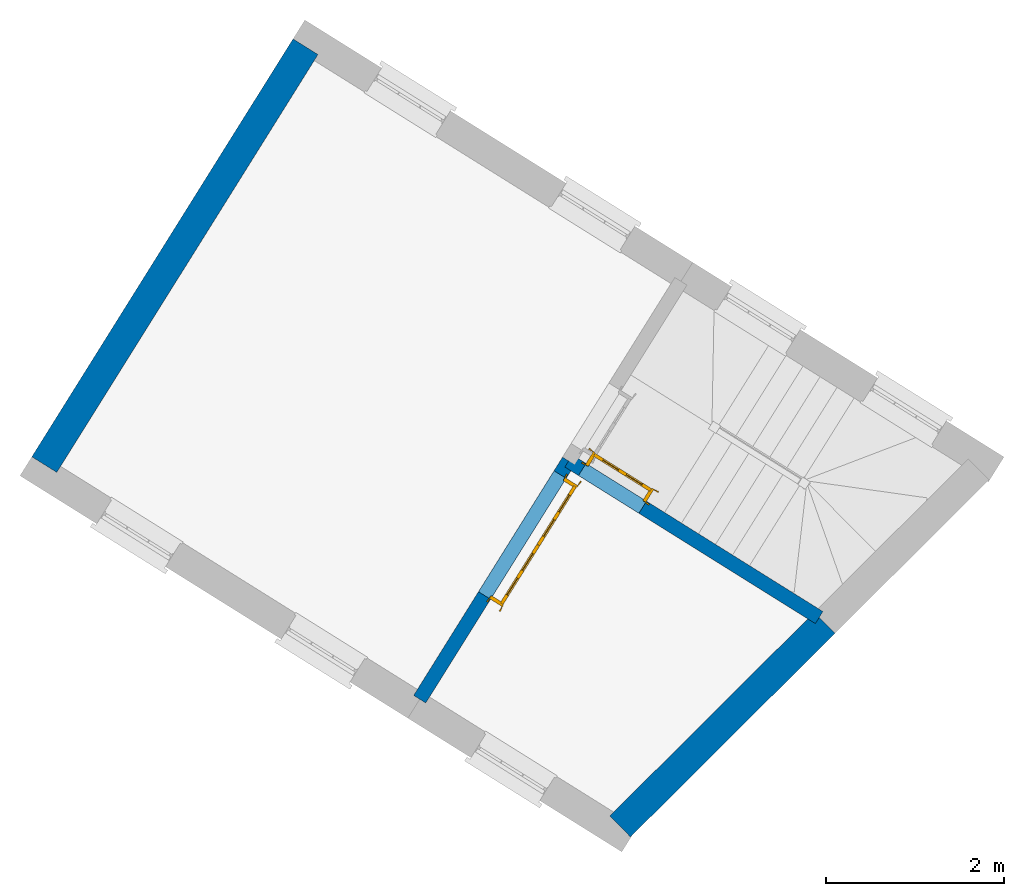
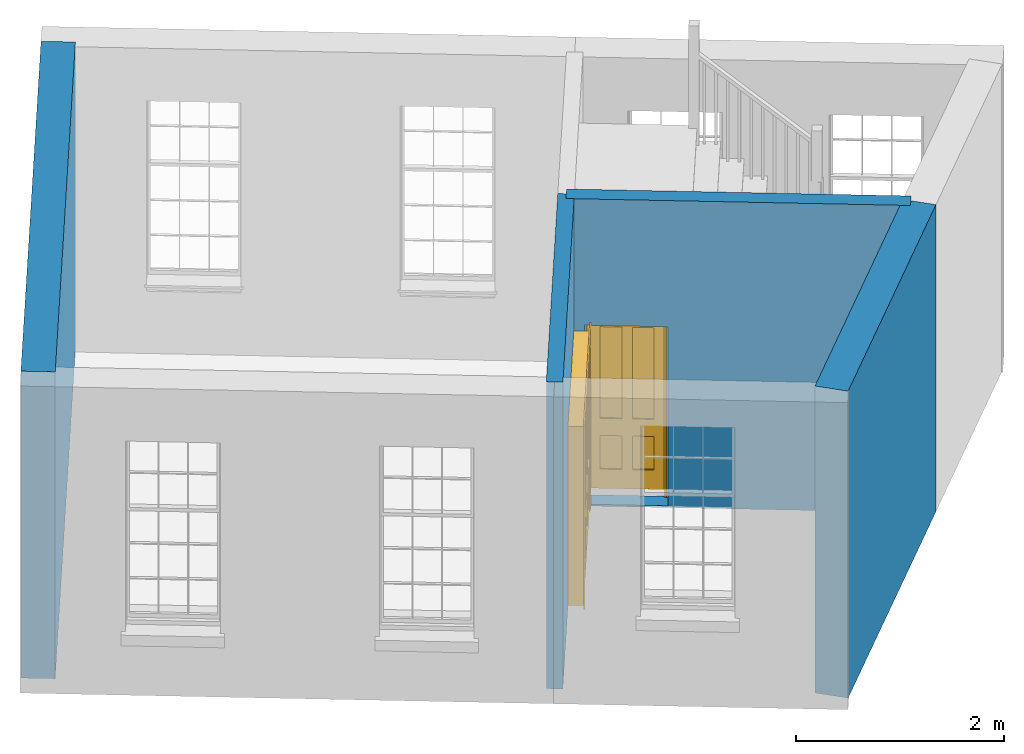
# One storey, part 2 of 3: 4 walls, 2 doors, 2 openings.
"""IFC4 building model written with IfcOpenShell, lengths in metres."""

from ifc_helpers import new_model, si_unit, frame, origin, origin_with_axes, place, context, subcontext, project, spatial, polyline, outline, extrude, faceted_brep, source, transform, mapped, material, layer, layer_set, layer_usage, type_object, type_shapes, element, fill, save


model = new_model("IFC4")

# Units and contexts
model_context = context("Model", 3, world=origin_with_axes())
body_context = subcontext(model_context, "Body", "Model", "MODEL_VIEW")
ifc_project = project(units=[si_unit("PLANEANGLEUNIT", "RADIAN"), si_unit("MASSUNIT", "GRAM", prefix="KILO"), si_unit("FORCEUNIT", "NEWTON", prefix="KILO"), si_unit("LENGTHUNIT", "METRE"), si_unit("AREAUNIT", "SQUARE_METRE"), si_unit("VOLUMEUNIT", "CUBIC_METRE")], contexts=[model_context, model_context])

# Sites, building, storey
site_1_placement = place(None, origin_with_axes())
site_1 = spatial("IfcSite", under=ifc_project, at=site_1_placement, Name="Tamar")
site_2_placement = place(site_1_placement, origin_with_axes())
site_2 = spatial("IfcSite", under=site_1, at=site_2_placement, Name="Site plot-4", CompositionType="ELEMENT")
building_placement = place(None, origin_with_axes())
building = spatial("IfcBuilding", under=site_2, at=building_placement, Name="Building plot-4", CompositionType="ELEMENT")
storey_placement = place(None, frame((0.0, 0.0, 27.8), z_axis=(0.0, 0.0, 1.0), x_axis=(1.0, 0.0, 0.0)))
storey = spatial("IfcBuildingStorey", under=building, at=storey_placement, Name="plot-4 1", CompositionType="ELEMENT", Elevation=27.8)

# Walls
ifc_material_1 = material(Name="Masonry")
ifc_layer_1 = layer(ifc_material_1, 0.33, ventilated=False)
ifc_layer_set_1 = layer_set([ifc_layer_1], Name="party_0.08_0.25")
ifc_layer_usage_1 = layer_usage(ifc_layer_set_1, "AXIS2", "POSITIVE", -0.25)
wall_type_1 = type_object("IfcWallType", Name="party_0.08_0.25", PredefinedType="SOLIDWALL", material=ifc_layer_set_1)
wall_1_placement = place(storey_placement, frame((224.156556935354, 277.526223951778, 0.0), z_axis=(0.0, 0.0, 1.0), x_axis=(0.708567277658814, 0.705643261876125, 0.0)))
element("IfcWall", 1, at=wall_1_placement, inside=storey, type_object=wall_type_1, material=ifc_layer_usage_1, Name="party", context=body_context, shape_type="SweptSolid", body=[
    extrude(outline(polyline([(1.32209934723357e-14, 0.0800000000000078), (-1.09491493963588e-15, -0.250000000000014), (3.23643631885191, -0.250000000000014), (3.23643631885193, 0.0800000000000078), (1.32209934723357e-14, 0.0800000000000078)])), origin_with_axes(), (0.0, 0.0, 1.0), 3.6),
])
wall_2_placement = place(storey_placement, frame((220.76030713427, 286.167999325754, 0.0), z_axis=(0.0, 0.0, 1.0), x_axis=(-0.530026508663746, -0.847981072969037, 0.0)))
element("IfcWall", 2, at=wall_2_placement, inside=storey, type_object=wall_type_1, material=ifc_layer_usage_1, Name="party", context=body_context, shape_type="SweptSolid", body=[
    extrude(outline(polyline([(1.56172444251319e-14, 0.0799999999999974), (4.67824478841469e-15, -0.249999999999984), (5.52795952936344, -0.249999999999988), (5.52795952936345, 0.0799999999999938), (1.56172444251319e-14, 0.0799999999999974)])), origin_with_axes(), (0.0, 0.0, 1.0), 3.6),
])

# Wall, opening, door
ifc_material_2 = material(Name="Masonry")
ifc_layer_2 = layer(ifc_material_2, 0.16, ventilated=False)
ifc_layer_set_2 = layer_set([ifc_layer_2], Name="interior_0.08_0.08")
ifc_layer_usage_2 = layer_usage(ifc_layer_set_2, "AXIS2", "POSITIVE", -0.08)
wall_type_2 = type_object("IfcWallType", Name="interior_0.08_0.08", PredefinedType="SOLIDWALL", material=ifc_layer_set_2)
wall_3_placement = place(storey_placement, frame((223.639587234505, 281.566497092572, 0.0), z_axis=(0.0, 0.0, 1.0), x_axis=(0.847981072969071, -0.530026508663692, 0.0)))
wall_3 = element("IfcWall", 3, at=wall_3_placement, inside=storey, type_object=wall_type_2, material=ifc_layer_usage_2, Name="interior", context=body_context, shape_type="SweptSolid", body=[
    extrude(outline(polyline([(-3.37017940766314e-15, 0.0799999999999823), (3.32485509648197e-15, -0.0799999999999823), (3.3139920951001, -0.0799999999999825), (3.3139920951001, 0.0799999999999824), (-3.37017940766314e-15, 0.0799999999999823)])), origin_with_axes(), (0.0, 0.0, 1.0), 3.6),
])
opening_1_placement = place(wall_3_placement, frame((0.180000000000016, 0.0, 0.0199999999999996)))
opening_1 = element("IfcOpeningElement", 4, at=opening_1_placement, cuts=wall_3, Name="My Opening", ObjectType="Opening", context=body_context, shape_type="SweptSolid", body=[
    extrude(outline(polyline([(0.0, -0.100000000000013), (0.79999999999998, -0.100000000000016), (0.799999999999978, 1.10000000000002), (-2.08166817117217e-15, 1.10000000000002), (0.0, -0.100000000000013)])), origin_with_axes(), (0.0, 0.0, 1.0), 2.1),
])
door_type_1 = type_object("IfcDoorType", Name="door_inside", OperationType="SINGLE_SWING_LEFT", PredefinedType="NOTDEFINED")
shared_shape_1 = source(origin(), body_context, "Body", "Brep", [
    faceted_brep([(0.773, 0.33, 1.895), (0.66, 0.33, 1.895), (0.66, 0.33, 2.073), (0.773, 0.33, 2.073), (0.773, 0.33, 0.82), (0.66, 0.33, 0.82), (0.45, 0.33, 1.895), (0.45, 0.33, 2.073), (0.773, 0.33, 0.62), (0.66, 0.33, 0.62), (0.66, 0.315, 0.82), (0.66, 0.315, 1.895), (0.45, 0.315, 1.895), (0.35, 0.33, 1.895), (0.35, 0.33, 2.073), (0.773, 0.33, 0.225), (0.66, 0.33, 0.225), (0.45, 0.33, 0.62), (0.45, 0.33, 0.82), (0.45, 0.315, 0.82), (0.35, 0.33, 0.82), (0.14, 0.33, 2.073), (0.14, 0.33, 1.895), (0.773, 0.33, 0.0), (0.66, 0.33, 0.0), (0.66, 0.315, 0.225), (0.66, 0.315, 0.62), (0.45, 0.315, 0.62), (0.35, 0.33, 0.62), (0.35, 0.315, 0.82), (0.35, 0.315, 1.895), (0.14, 0.315, 1.895), (0.027, 0.33, 2.073), (0.027, 0.33, 1.895), (0.773, 0.292, 0.0), (0.66, 0.292, 0.0), (0.45, 0.33, 0.0), (0.45, 0.33, 0.225), (0.45, 0.315, 0.225), (0.35, 0.33, 0.225), (0.14, 0.33, 0.82), (0.14, 0.33, 0.62), (0.14, 0.315, 0.82), (0.027, 0.33, 0.82), (0.773, 0.292, 0.225), (0.66, 0.292, 0.225), (0.45, 0.292, 0.0), (0.35, 0.33, 0.0), (0.35, 0.315, 0.225), (0.35, 0.315, 0.62), (0.14, 0.315, 0.62), (0.027, 0.33, 0.62), (0.773, 0.292, 0.62), (0.66, 0.292, 0.62), (0.45, 0.292, 0.225), (0.35, 0.292, 0.0), (0.14, 0.33, 0.225), (0.14, 0.33, 0.0), (0.14, 0.315, 0.225), (0.027, 0.33, 0.225), (0.773, 0.292, 0.82), (0.66, 0.292, 0.82), (0.66, 0.307, 0.62), (0.66, 0.307, 0.225), (0.45, 0.307, 0.225), (0.35, 0.292, 0.225), (0.14, 0.292, 0.0), (0.027, 0.33, 0.0), (0.773, 0.292, 1.895), (0.66, 0.292, 1.895), (0.45, 0.292, 0.62), (0.45, 0.292, 0.82), (0.45, 0.307, 0.62), (0.35, 0.292, 0.62), (0.14, 0.292, 0.225), (0.027, 0.292, 0.0), (0.773, 0.292, 2.073), (0.66, 0.292, 2.073), (0.66, 0.307, 1.895), (0.66, 0.307, 0.82), (0.45, 0.307, 0.82), (0.35, 0.292, 0.82), (0.35, 0.307, 0.62), (0.35, 0.307, 0.225), (0.14, 0.307, 0.225), (0.027, 0.292, 0.225), (0.45, 0.292, 1.895), (0.45, 0.292, 2.073), (0.45, 0.307, 1.895), (0.35, 0.292, 1.895), (0.14, 0.292, 0.82), (0.14, 0.292, 0.62), (0.14, 0.307, 0.62), (0.027, 0.292, 0.62), (0.35, 0.292, 2.073), (0.35, 0.307, 1.895), (0.35, 0.307, 0.82), (0.14, 0.307, 0.82), (0.027, 0.292, 0.82), (0.14, 0.292, 2.073), (0.14, 0.292, 1.895), (0.14, 0.307, 1.895), (0.027, 0.292, 1.895), (0.027, 0.292, 2.073), (0.02, 0.335, 0.0), (0.005, 0.34, 0.0), (0.005, 0.34, 2.095), (0.02, 0.335, 2.08), (0.02, 0.33, 0.0), (0.0, 0.335, 0.0), (0.0, 0.335, 2.1), (0.795, 0.34, 2.095), (0.78, 0.335, 2.08), (0.02, 0.33, 2.08), (0.0, 0.33, 0.0), (-0.032, 0.345, 0.0), (-0.032, 0.345, 2.132), (0.8, 0.335, 2.1), (0.795, 0.34, 0.0), (0.78, 0.335, 0.0), (0.78, 0.33, 2.08), (0.04, 0.29, 0.0), (0.025, 0.29, 0.0), (0.025, 0.29, 2.075), (0.04, 0.29, 2.06), (-0.04, 0.34, 0.0), (-0.04, 0.34, 2.14), (0.832, 0.345, 2.132), (0.8, 0.335, 0.0), (0.78, 0.33, 0.0), (0.8, 0.33, 0.0), (0.86, 0.33, 0.0), (0.86, 0.33, 2.16), (0.8, 0.33, 2.1), (-0.06, 0.33, 2.16), (0.0, 0.33, 2.1), (-0.06, 0.33, 0.0), (-0.04, 0.345, 0.0), (-0.04, 0.345, 2.14), (0.84, 0.34, 2.14), (0.832, 0.345, 0.0), (0.84, 0.34, 0.0), (0.86, 0.345, 0.0), (0.86, 0.345, 2.16), (-0.06, 0.345, 2.16), (-0.06, 0.345, 0.0), (0.84, 0.345, 0.0), (0.84, 0.345, 2.14), (-0.025, 0.155, 0.0), (-0.025, 0.16, 0.0), (-0.025, 0.16, 2.125), (-0.025, 0.155, 2.125), (-0.017, 0.155, 0.0), (-0.017, 0.155, 2.117), (0.825, 0.16, 2.125), (0.825, 0.155, 2.125), (0.825, 0.155, 0.0), (0.845, 0.155, 0.0), (-0.045, 0.155, 2.145), (-0.045, 0.155, 0.0), (0.845, 0.155, 2.145), (0.015, 0.165, 0.0), (0.015, 0.165, 2.085), (0.817, 0.155, 2.117), (0.825, 0.16, 0.0), (0.845, 0.17, 0.0), (0.845, 0.17, 2.145), (-0.045, 0.17, 2.145), (-0.045, 0.17, 0.0), (0.02, 0.16, 0.0), (0.02, 0.16, 2.08), (0.785, 0.165, 2.085), (0.817, 0.155, 0.0), (0.8, 0.17, 0.0), (0.8, 0.17, 2.1), (0.0, 0.17, 2.1), (0.0, 0.17, 0.0), (0.035, 0.165, 0.0), (0.035, 0.165, 2.065), (0.78, 0.16, 2.08), (0.785, 0.165, 0.0), (0.775, 0.29, 2.075), (0.76, 0.29, 2.06), (0.035, 0.17, 2.065), (0.035, 0.17, 0.0), (0.765, 0.165, 2.065), (0.78, 0.16, 0.0), (0.765, 0.17, 0.0), (0.765, 0.17, 2.065), (0.765, 0.165, 0.0), (0.04, 0.17, 2.06), (0.04, 0.17, 0.0), (0.76, 0.17, 2.06), (0.76, 0.17, 0.0), (0.76, 0.29, 0.0), (0.775, 0.29, 0.0), (0.025, 0.33, 0.0), (0.025, 0.33, 2.075), (0.775, 0.33, 0.0), (0.775, 0.33, 2.075)], [[[0, 1, 2, 3]], [[1, 0, 4, 5]], [[1, 6, 7, 2]], [[8, 9, 5, 4]], [[1, 5, 10, 11]], [[6, 1, 11, 12]], [[6, 13, 14, 7]], [[15, 16, 9, 8]], [[9, 17, 18, 5]], [[5, 18, 19, 10]], [[10, 19, 12, 11]], [[18, 6, 12, 19]], [[18, 20, 13, 6]], [[21, 14, 13, 22]], [[23, 24, 16, 15]], [[9, 16, 25, 26]], [[17, 9, 26, 27]], [[17, 28, 20, 18]], [[13, 20, 29, 30]], [[22, 13, 30, 31]], [[32, 21, 22, 33]], [[34, 35, 24, 23]], [[24, 36, 37, 16]], [[16, 37, 38, 25]], [[25, 38, 27, 26]], [[37, 17, 27, 38]], [[37, 39, 28, 17]], [[40, 20, 28, 41]], [[20, 40, 42, 29]], [[31, 30, 29, 42]], [[40, 22, 31, 42]], [[33, 22, 40, 43]], [[35, 34, 44, 45]], [[35, 46, 36, 24]], [[36, 47, 39, 37]], [[28, 39, 48, 49]], [[41, 28, 49, 50]], [[43, 40, 41, 51]], [[45, 44, 52, 53]], [[46, 35, 45, 54]], [[46, 55, 47, 36]], [[56, 39, 47, 57]], [[39, 56, 58, 48]], [[50, 49, 48, 58]], [[56, 41, 50, 58]], [[51, 41, 56, 59]], [[53, 52, 60, 61]], [[45, 53, 62, 63]], [[54, 45, 63, 64]], [[55, 46, 54, 65]], [[55, 66, 57, 47]], [[59, 56, 57, 67]], [[61, 60, 68, 69]], [[70, 53, 61, 71]], [[53, 70, 72, 62]], [[72, 64, 63, 62]], [[70, 54, 64, 72]], [[65, 54, 70, 73]], [[65, 74, 66, 55]], [[67, 57, 66, 75]], [[69, 68, 76, 77]], [[61, 69, 78, 79]], [[71, 61, 79, 80]], [[73, 70, 71, 81]], [[65, 73, 82, 83]], [[74, 65, 83, 84]], [[74, 85, 75, 66]], [[86, 69, 77, 87]], [[69, 86, 88, 78]], [[88, 80, 79, 78]], [[86, 71, 80, 88]], [[81, 71, 86, 89]], [[73, 81, 90, 91]], [[73, 91, 92, 82]], [[83, 82, 92, 84]], [[91, 74, 84, 92]], [[91, 93, 85, 74]], [[89, 86, 87, 94]], [[81, 89, 95, 96]], [[90, 81, 96, 97]], [[90, 98, 93, 91]], [[94, 99, 100, 89]], [[89, 100, 101, 95]], [[101, 97, 96, 95]], [[100, 90, 97, 101]], [[100, 102, 98, 90]], [[99, 103, 102, 100]], [[32, 103, 99, 21]], [[102, 103, 32, 33]], [[98, 102, 33, 43]], [[21, 99, 94, 14]], [[94, 87, 7, 14]], [[7, 87, 77, 2]], [[76, 3, 2, 77]], [[43, 51, 93, 98]], [[51, 59, 85, 93]], [[67, 75, 85, 59]], [[34, 23, 15, 44]], [[44, 15, 8, 52]], [[52, 8, 4, 60]], [[0, 68, 60, 4]], [[0, 3, 76, 68]], [[104, 105, 106, 107]], [[104, 108, 109, 105]], [[105, 109, 110, 106]], [[107, 106, 111, 112]], [[107, 113, 108, 104]], [[114, 109, 108]], [[109, 115, 116, 110]], [[106, 110, 117, 111]], [[112, 111, 118, 119]], [[113, 107, 112, 120]], [[121, 122, 123, 124]], [[115, 109, 114, 125]], [[115, 125, 126, 116]], [[110, 116, 127, 117]], [[111, 117, 128, 118]], [[118, 128, 129, 119]], [[120, 112, 119, 129]], [[130, 129, 128]], [[130, 131, 132, 133]], [[133, 132, 134, 135]], [[135, 134, 136, 114]], [[136, 125, 114]], [[125, 137, 138, 126]], [[116, 126, 139, 127]], [[117, 127, 140, 128]], [[141, 130, 128, 140]], [[131, 130, 141]], [[131, 142, 143, 132]], [[132, 143, 144, 134]], [[134, 144, 145, 136]], [[137, 125, 136, 145]], [[143, 142, 146]], [[143, 146, 147]], [[137, 145, 144]], [[143, 147, 138]], [[138, 137, 144]], [[143, 138, 144]], [[126, 138, 147, 139]], [[127, 139, 141, 140]], [[142, 131, 141, 146]], [[139, 147, 146, 141]], [[148, 149, 150, 151]], [[149, 152, 153, 150]], [[151, 150, 154, 155]], [[155, 156, 157]], [[158, 159, 148]], [[158, 148, 151]], [[155, 157, 160]], [[158, 151, 155]], [[155, 160, 158]], [[152, 161, 162, 153]], [[150, 153, 163, 154]], [[155, 154, 164, 156]], [[156, 164, 165, 157]], [[157, 165, 166, 160]], [[160, 166, 167, 158]], [[158, 167, 168, 159]], [[161, 169, 170, 162]], [[153, 162, 171, 163]], [[154, 163, 172, 164]], [[165, 164, 173]], [[165, 173, 174, 166]], [[166, 174, 175, 167]], [[167, 175, 176, 168]], [[169, 177, 178, 170]], [[162, 170, 179, 171]], [[163, 171, 180, 172]], [[172, 180, 173, 164]], [[124, 123, 181, 182]], [[183, 178, 177, 184]], [[170, 178, 185, 179]], [[171, 179, 186, 180]], [[187, 173, 180]], [[185, 188, 187, 189]], [[188, 185, 178, 183]], [[179, 185, 189, 186]], [[189, 187, 180, 186]], [[190, 183, 184, 191]], [[192, 188, 183, 190]], [[191, 184, 122, 121]], [[124, 190, 191, 121]], [[193, 187, 188, 192]], [[182, 192, 190, 124]], [[184, 176, 122]], [[194, 195, 187, 193]], [[192, 182, 194, 193]], [[161, 176, 184]], [[114, 108, 122, 176]], [[173, 187, 195]], [[152, 149, 176, 161]], [[169, 161, 184, 177]], [[196, 122, 108]], [[176, 175, 135, 114]], [[173, 195, 129, 130]], [[176, 149, 168]], [[123, 122, 196, 197]], [[196, 108, 113, 197]], [[175, 174, 133, 135]], [[198, 129, 195]], [[133, 174, 173, 130]], [[159, 168, 149, 148]], [[181, 123, 197, 199]], [[197, 113, 120, 199]], [[199, 120, 129, 198]], [[195, 181, 199, 198]], [[195, 194, 182, 181]]]),
])
type_shapes(door_type_1, [shared_shape_1])
door_1_placement = place(storey_placement, frame((223.739221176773, 281.386294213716, 0.0199999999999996), z_axis=(0.0, 0.0, 1.0), x_axis=(0.678384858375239, -0.424021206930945, 0.0)))
door_1 = element("IfcDoor", 5, at=door_1_placement, inside=storey, type_object=door_type_1, Name="kitchen inside door", OverallHeight=2.1, OverallWidth=0.8, context=body_context, shape_type="MappedRepresentation", body=[
    mapped(shared_shape_1, transform((0.0, 0.0, 0.0), scale=1.0)),
])
fill(opening_1, door_1)

wall_4_placement = place(storey_placement, frame((223.639587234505, 281.566497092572, 0.0), z_axis=(0.0, 0.0, 1.0), x_axis=(-0.53002650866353, -0.847981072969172, 0.0)))
wall_4 = element("IfcWall", 6, at=wall_4_placement, inside=storey, type_object=wall_type_2, material=ifc_layer_usage_2, Name="interior", context=body_context, shape_type="SweptSolid", body=[
    extrude(outline(polyline([(-2.72995368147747e-14, 0.0799999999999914), (2.73252667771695e-14, -0.0799999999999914), (3.15206750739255, -0.0799999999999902), (3.15206750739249, 0.0799999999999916), (-2.72995368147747e-14, 0.0799999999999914)])), origin_with_axes(), (0.0, 0.0, 1.0), 3.6),
])
opening_2_placement = place(wall_4_placement, frame((0.179999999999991, 0.0, 0.0199999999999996)))
opening_2 = element("IfcOpeningElement", 7, at=opening_2_placement, cuts=wall_4, Name="My Opening", ObjectType="Opening", context=body_context, shape_type="SweptSolid", body=[
    extrude(outline(polyline([(0.0, -0.0999999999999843), (1.60000000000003, -0.0999999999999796), (1.60000000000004, 1.09999999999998), (3.13638004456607e-15, 1.09999999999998), (0.0, -0.0999999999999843)])), origin_with_axes(), (0.0, 0.0, 1.0), 2.1),
])
door_type_2 = type_object("IfcDoorType", Name="door_inside_double", OperationType="SINGLE_SWING_LEFT", PredefinedType="NOTDEFINED")
shared_shape_2 = source(origin(), body_context, "Body", "Brep", [
    faceted_brep([(0.14, 0.307, 1.895), (0.14, 0.307, 0.82), (0.363, 0.307, 0.82), (0.363, 0.307, 1.895), (0.14, 0.292, 1.895), (0.14, 0.292, 0.82), (0.363, 0.292, 0.82), (0.363, 0.292, 1.895), (0.027, 0.292, 1.895), (0.027, 0.292, 0.82), (0.363, 0.292, 0.62), (0.14, 0.292, 0.62), (0.463, 0.292, 0.82), (0.463, 0.292, 1.895), (0.363, 0.292, 2.073), (0.14, 0.292, 2.073), (0.027, 0.292, 2.073), (0.027, 0.33, 1.895), (0.027, 0.33, 0.82), (0.027, 0.292, 0.62), (0.463, 0.292, 0.62), (0.14, 0.307, 0.62), (0.363, 0.307, 0.62), (0.463, 0.307, 0.82), (0.463, 0.307, 1.895), (0.463, 0.292, 2.073), (0.14, 0.33, 2.073), (0.363, 0.33, 2.073), (0.027, 0.33, 2.073), (0.14, 0.33, 1.895), (0.14, 0.33, 0.82), (0.027, 0.33, 0.62), (0.027, 0.292, 0.225), (0.14, 0.292, 0.225), (0.363, 0.292, 0.225), (0.463, 0.292, 0.225), (0.686, 0.292, 0.62), (0.686, 0.292, 0.82), (0.14, 0.307, 0.225), (0.363, 0.307, 0.225), (0.686, 0.307, 0.82), (0.686, 0.307, 1.895), (0.686, 0.292, 1.895), (0.686, 0.292, 2.073), (0.463, 0.33, 2.073), (0.363, 0.33, 1.895), (0.14, 0.315, 1.895), (0.14, 0.315, 0.82), (0.14, 0.33, 0.62), (0.027, 0.33, 0.225), (0.027, 0.292, 0.0), (0.14, 0.292, 0.0), (0.363, 0.292, 0.0), (0.463, 0.292, 0.0), (0.463, 0.307, 0.225), (0.463, 0.307, 0.62), (0.686, 0.307, 0.62), (0.799, 0.292, 0.62), (0.799, 0.292, 0.82), (0.799, 0.292, 1.895), (0.799, 0.292, 2.073), (0.686, 0.33, 2.073), (0.463, 0.33, 1.895), (0.363, 0.315, 1.895), (0.363, 0.315, 0.82), (0.363, 0.33, 0.82), (0.363, 0.33, 0.62), (0.14, 0.33, 0.225), (0.027, 0.33, 0.0), (0.14, 0.33, 0.0), (0.363, 0.33, 0.0), (0.463, 0.33, 0.0), (0.686, 0.292, 0.0), (0.686, 0.292, 0.225), (0.686, 0.307, 0.225), (0.799, 0.292, 0.225), (0.799, 0.33, 0.62), (0.799, 0.33, 0.82), (0.799, 0.33, 1.895), (0.799, 0.33, 2.073), (0.686, 0.33, 1.895), (0.463, 0.33, 0.82), (0.463, 0.33, 0.62), (0.363, 0.315, 0.62), (0.14, 0.315, 0.62), (0.14, 0.315, 0.225), (0.363, 0.33, 0.225), (0.463, 0.33, 0.225), (0.686, 0.33, 0.0), (0.799, 0.292, 0.0), (0.799, 0.33, 0.225), (0.686, 0.33, 0.62), (0.686, 0.33, 0.82), (0.686, 0.315, 1.895), (0.463, 0.315, 1.895), (0.463, 0.315, 0.82), (0.363, 0.315, 0.225), (0.686, 0.33, 0.225), (0.799, 0.33, 0.0), (0.686, 0.315, 0.82), (0.463, 0.315, 0.62), (0.463, 0.315, 0.225), (0.686, 0.315, 0.62), (0.686, 0.315, 0.225), (1.46, 0.33, 1.895), (1.237, 0.33, 1.895), (1.237, 0.33, 2.073), (1.46, 0.33, 2.073), (1.46, 0.315, 1.895), (1.237, 0.315, 1.895), (1.137, 0.33, 1.895), (1.137, 0.33, 2.073), (1.237, 0.292, 2.073), (1.46, 0.292, 2.073), (1.573, 0.33, 1.895), (1.573, 0.33, 2.073), (1.46, 0.33, 0.82), (1.46, 0.315, 0.82), (1.237, 0.315, 0.82), (1.237, 0.33, 0.82), (1.137, 0.33, 0.82), (0.914, 0.33, 2.073), (0.914, 0.33, 1.895), (1.137, 0.292, 2.073), (1.237, 0.292, 1.895), (1.46, 0.292, 1.895), (1.573, 0.292, 2.073), (1.573, 0.33, 0.82), (1.573, 0.292, 1.895), (1.237, 0.33, 0.62), (1.137, 0.33, 0.62), (1.137, 0.315, 0.82), (1.137, 0.315, 1.895), (0.914, 0.292, 2.073), (0.914, 0.315, 1.895), (0.801, 0.33, 2.073), (0.801, 0.33, 1.895), (1.137, 0.292, 1.895), (1.237, 0.307, 1.895), (1.46, 0.307, 1.895), (1.573, 0.292, 0.82), (1.573, 0.33, 0.62), (1.46, 0.33, 0.62), (1.237, 0.33, 0.225), (1.137, 0.33, 0.225), (0.914, 0.33, 0.82), (0.914, 0.33, 0.62), (0.914, 0.315, 0.82), (0.801, 0.292, 2.073), (0.914, 0.292, 1.895), (0.801, 0.33, 0.82), (0.801, 0.292, 1.895), (1.137, 0.292, 0.82), (1.237, 0.292, 0.82), (1.237, 0.307, 0.82), (1.46, 0.307, 0.82), (1.46, 0.292, 0.82), (1.573, 0.292, 0.62), (1.573, 0.33, 0.225), (1.46, 0.33, 0.225), (1.46, 0.315, 0.62), (1.237, 0.315, 0.62), (1.237, 0.33, 0.0), (1.137, 0.33, 0.0), (1.137, 0.315, 0.225), (1.137, 0.315, 0.62), (1.237, 0.315, 0.225), (0.914, 0.315, 0.62), (0.801, 0.33, 0.62), (0.914, 0.307, 1.895), (1.137, 0.307, 1.895), (0.801, 0.292, 0.82), (1.137, 0.292, 0.62), (1.237, 0.292, 0.62), (1.137, 0.307, 0.82), (1.46, 0.292, 0.62), (1.573, 0.292, 0.225), (1.573, 0.33, 0.0), (1.46, 0.33, 0.0), (1.46, 0.315, 0.225), (1.237, 0.292, 0.0), (1.137, 0.292, 0.0), (0.914, 0.33, 0.225), (0.914, 0.33, 0.0), (0.914, 0.315, 0.225), (0.801, 0.33, 0.225), (0.801, 0.292, 0.62), (0.914, 0.292, 0.82), (0.914, 0.307, 0.82), (1.137, 0.292, 0.225), (1.237, 0.292, 0.225), (0.914, 0.292, 0.62), (1.46, 0.292, 0.225), (1.573, 0.292, 0.0), (1.46, 0.292, 0.0), (0.914, 0.292, 0.0), (0.801, 0.33, 0.0), (0.801, 0.292, 0.225), (1.237, 0.307, 0.225), (1.237, 0.307, 0.62), (1.137, 0.307, 0.62), (1.137, 0.307, 0.225), (1.46, 0.307, 0.62), (0.914, 0.307, 0.62), (1.46, 0.307, 0.225), (0.914, 0.292, 0.225), (0.801, 0.292, 0.0), (0.914, 0.307, 0.225), (0.02, 0.335, 0.0), (0.005, 0.34, 0.0), (0.005, 0.34, 2.095), (0.02, 0.335, 2.08), (0.02, 0.33, 0.0), (0.0, 0.335, 0.0), (0.0, 0.335, 2.1), (1.595, 0.34, 2.095), (1.58, 0.335, 2.08), (0.02, 0.33, 2.08), (0.0, 0.33, 0.0), (-0.032, 0.345, 0.0), (-0.032, 0.345, 2.132), (1.6, 0.335, 2.1), (1.595, 0.34, 0.0), (1.58, 0.335, 0.0), (1.58, 0.33, 2.08), (0.025, 0.33, 0.0), (0.025, 0.33, 2.075), (-0.04, 0.34, 0.0), (0.025, 0.29, 0.0), (0.0, 0.17, 0.0), (-0.04, 0.34, 2.14), (1.632, 0.345, 2.132), (1.6, 0.335, 0.0), (1.58, 0.33, 0.0), (1.575, 0.33, 2.075), (0.025, 0.29, 2.075), (-0.06, 0.33, 0.0), (0.035, 0.17, 0.0), (0.0, 0.17, 2.1), (0.0, 0.33, 2.1), (-0.04, 0.345, 0.0), (-0.04, 0.345, 2.14), (1.64, 0.34, 2.14), (1.632, 0.345, 0.0), (1.6, 0.33, 0.0), (1.575, 0.33, 0.0), (1.575, 0.29, 2.075), (0.04, 0.29, 0.0), (0.04, 0.29, 2.06), (-0.06, 0.345, 0.0), (-0.06, 0.33, 2.16), (0.015, 0.165, 0.0), (0.04, 0.17, 0.0), (-0.045, 0.17, 2.145), (-0.045, 0.17, 0.0), (1.6, 0.17, 2.1), (1.6, 0.33, 2.1), (-0.06, 0.345, 2.16), (1.64, 0.345, 2.14), (1.64, 0.34, 0.0), (1.6, 0.17, 0.0), (1.575, 0.29, 0.0), (1.56, 0.29, 2.06), (0.04, 0.17, 2.06), (1.66, 0.33, 2.16), (-0.017, 0.155, 0.0), (-0.025, 0.16, 0.0), (0.02, 0.16, 0.0), (0.035, 0.165, 0.0), (0.035, 0.17, 2.065), (1.645, 0.17, 2.145), (-0.045, 0.155, 2.145), (-0.045, 0.155, 0.0), (1.66, 0.345, 2.16), (1.64, 0.345, 0.0), (1.66, 0.33, 0.0), (1.565, 0.17, 0.0), (1.56, 0.29, 0.0), (1.56, 0.17, 2.06), (-0.017, 0.155, 2.117), (-0.025, 0.16, 2.125), (0.015, 0.165, 2.085), (0.02, 0.16, 2.08), (0.035, 0.165, 2.065), (1.565, 0.17, 2.065), (1.645, 0.17, 0.0), (1.645, 0.155, 2.145), (-0.025, 0.155, 0.0), (1.66, 0.345, 0.0), (1.585, 0.165, 0.0), (1.56, 0.17, 0.0), (1.617, 0.155, 2.117), (1.625, 0.16, 2.125), (-0.025, 0.155, 2.125), (1.585, 0.165, 2.085), (1.58, 0.16, 2.08), (1.565, 0.165, 2.065), (1.625, 0.16, 0.0), (1.645, 0.155, 0.0), (1.625, 0.155, 2.125), (1.617, 0.155, 0.0), (1.565, 0.165, 0.0), (1.58, 0.16, 0.0), (1.625, 0.155, 0.0)], [[[0, 1, 2, 3]], [[1, 0, 4, 5]], [[2, 1, 5, 6]], [[6, 7, 3, 2]], [[7, 4, 0, 3]], [[4, 8, 9, 5]], [[10, 6, 5, 11]], [[6, 12, 13, 7]], [[14, 15, 4, 7]], [[15, 16, 8, 4]], [[9, 8, 17, 18]], [[5, 9, 19, 11]], [[10, 20, 12, 6]], [[10, 11, 21, 22]], [[13, 12, 23, 24]], [[7, 13, 25, 14]], [[26, 15, 14, 27]], [[28, 16, 15, 26]], [[8, 16, 28, 17]], [[17, 29, 30, 18]], [[18, 31, 19, 9]], [[11, 19, 32, 33]], [[34, 35, 20, 10]], [[20, 36, 37, 12]], [[11, 33, 38, 21]], [[39, 22, 21, 38]], [[34, 10, 22, 39]], [[12, 37, 40, 23]], [[24, 23, 40, 41]], [[42, 13, 24, 41]], [[13, 42, 43, 25]], [[14, 25, 44, 27]], [[26, 27, 45, 29]], [[28, 26, 29, 17]], [[30, 29, 46, 47]], [[18, 30, 48, 31]], [[31, 49, 32, 19]], [[33, 32, 50, 51]], [[52, 53, 35, 34]], [[20, 35, 54, 55]], [[36, 20, 55, 56]], [[36, 57, 58, 37]], [[33, 34, 39, 38]], [[37, 42, 41, 40]], [[42, 59, 60, 43]], [[44, 25, 43, 61]], [[62, 45, 27, 44]], [[29, 45, 63, 46]], [[46, 63, 64, 47]], [[65, 30, 47, 64]], [[30, 65, 66, 48]], [[31, 48, 67, 49]], [[68, 50, 32, 49]], [[68, 69, 51, 50]], [[34, 33, 51, 52]], [[53, 52, 70, 71]], [[53, 72, 73, 35]], [[35, 73, 74, 54]], [[55, 54, 74, 56]], [[73, 36, 56, 74]], [[73, 75, 57, 36]], [[57, 76, 77, 58]], [[37, 58, 59, 42]], [[78, 79, 60, 59]], [[60, 79, 61, 43]], [[80, 62, 44, 61]], [[81, 65, 45, 62]], [[45, 65, 64, 63]], [[82, 66, 65, 81]], [[48, 66, 83, 84]], [[67, 48, 84, 85]], [[49, 67, 69, 68]], [[52, 51, 69, 70]], [[71, 70, 86, 87]], [[72, 53, 71, 88]], [[72, 89, 75, 73]], [[75, 90, 76, 57]], [[76, 91, 92, 77]], [[78, 59, 58, 77]], [[78, 80, 61, 79]], [[62, 80, 93, 94]], [[81, 62, 94, 95]], [[87, 86, 66, 82]], [[91, 82, 81, 92]], [[66, 86, 96, 83]], [[84, 83, 96, 85]], [[86, 67, 85, 96]], [[67, 86, 70, 69]], [[88, 71, 87, 97]], [[89, 72, 88, 98]], [[89, 98, 90, 75]], [[90, 97, 91, 76]], [[80, 78, 77, 92]], [[80, 92, 99, 93]], [[99, 95, 94, 93]], [[92, 81, 95, 99]], [[87, 82, 100, 101]], [[82, 91, 102, 100]], [[97, 87, 101, 103]], [[98, 88, 97, 90]], [[91, 97, 103, 102]], [[103, 101, 100, 102]], [[104, 105, 106, 107]], [[105, 104, 108, 109]], [[105, 110, 111, 106]], [[106, 112, 113, 107]], [[114, 104, 107, 115]], [[104, 116, 117, 108]], [[117, 118, 109, 108]], [[119, 105, 109, 118]], [[119, 120, 110, 105]], [[121, 111, 110, 122]], [[123, 112, 106, 111]], [[124, 125, 113, 112]], [[126, 115, 107, 113]], [[104, 114, 127, 116]], [[114, 115, 126, 128]], [[116, 119, 118, 117]], [[129, 130, 120, 119]], [[110, 120, 131, 132]], [[121, 133, 123, 111]], [[122, 110, 132, 134]], [[135, 121, 122, 136]], [[137, 124, 112, 123]], [[125, 124, 138, 139]], [[125, 128, 126, 113]], [[114, 128, 140, 127]], [[141, 142, 116, 127]], [[142, 129, 119, 116]], [[143, 144, 130, 129]], [[145, 120, 130, 146]], [[120, 145, 147, 131]], [[134, 132, 131, 147]], [[135, 148, 133, 121]], [[123, 133, 149, 137]], [[145, 122, 134, 147]], [[136, 122, 145, 150]], [[151, 148, 135, 136]], [[152, 153, 124, 137]], [[124, 153, 154, 138]], [[138, 154, 155, 139]], [[156, 125, 139, 155]], [[156, 140, 128, 125]], [[157, 141, 127, 140]], [[158, 159, 142, 141]], [[129, 142, 160, 161]], [[162, 163, 144, 143]], [[130, 144, 164, 165]], [[143, 129, 161, 166]], [[146, 130, 165, 167]], [[150, 145, 146, 168]], [[133, 148, 151, 149]], [[137, 149, 169, 170]], [[171, 151, 136, 150]], [[172, 173, 153, 152]], [[152, 137, 170, 174]], [[153, 156, 155, 154]], [[175, 157, 140, 156]], [[176, 158, 141, 157]], [[177, 178, 159, 158]], [[142, 159, 179, 160]], [[179, 166, 161, 160]], [[180, 181, 163, 162]], [[182, 144, 163, 183]], [[178, 162, 143, 159]], [[144, 182, 184, 164]], [[167, 165, 164, 184]], [[159, 143, 166, 179]], [[182, 146, 167, 184]], [[168, 146, 182, 185]], [[150, 168, 186, 171]], [[149, 151, 171, 187]], [[149, 187, 188, 169]], [[169, 188, 174, 170]], [[189, 190, 173, 172]], [[173, 175, 156, 153]], [[172, 152, 187, 191]], [[187, 152, 174, 188]], [[192, 176, 157, 175]], [[193, 177, 158, 176]], [[193, 194, 178, 177]], [[181, 180, 190, 189]], [[181, 195, 183, 163]], [[194, 180, 162, 178]], [[185, 182, 183, 196]], [[168, 185, 197, 186]], [[187, 171, 186, 191]], [[173, 190, 198, 199]], [[189, 172, 200, 201]], [[175, 173, 199, 202]], [[172, 191, 203, 200]], [[194, 193, 176, 192]], [[192, 175, 202, 204]], [[180, 194, 192, 190]], [[189, 205, 195, 181]], [[196, 183, 195, 206]], [[196, 206, 197, 185]], [[191, 186, 197, 205]], [[190, 192, 204, 198]], [[199, 198, 204, 202]], [[201, 200, 203, 207]], [[205, 189, 201, 207]], [[191, 205, 207, 203]], [[205, 197, 206, 195]], [[208, 209, 210, 211]], [[208, 212, 213, 209]], [[209, 213, 214, 210]], [[211, 210, 215, 216]], [[211, 217, 212, 208]], [[218, 213, 212]], [[213, 219, 220, 214]], [[210, 214, 221, 215]], [[216, 215, 222, 223]], [[217, 211, 216, 224]], [[225, 212, 217, 226]], [[219, 213, 218, 227]], [[218, 212, 228, 229]], [[219, 227, 230, 220]], [[214, 220, 231, 221]], [[215, 221, 232, 222]], [[222, 232, 233, 223]], [[224, 216, 223, 233]], [[226, 217, 224, 234]], [[225, 228, 212]], [[235, 228, 225, 226]], [[236, 227, 218]], [[237, 229, 228]], [[229, 238, 239, 218]], [[227, 240, 241, 230]], [[220, 230, 242, 231]], [[221, 231, 243, 232]], [[244, 233, 232]], [[234, 224, 233, 245]], [[246, 235, 226, 234]], [[247, 228, 235, 248]], [[240, 227, 236, 249]], [[239, 250, 236, 218]], [[251, 229, 237]], [[252, 237, 228, 247]], [[253, 238, 229, 254]], [[238, 255, 256, 239]], [[241, 240, 257]], [[230, 241, 258, 242]], [[231, 242, 259, 243]], [[259, 244, 232, 243]], [[260, 261, 233, 244]], [[245, 233, 261]], [[261, 246, 234, 245]], [[248, 235, 246, 262]], [[248, 263, 252, 247]], [[250, 257, 249, 236]], [[240, 249, 257]], [[256, 264, 250, 239]], [[265, 266, 229, 251]], [[267, 251, 237, 268]], [[263, 269, 237, 252]], [[270, 255, 238, 253]], [[229, 266, 254]], [[271, 253, 254, 272]], [[256, 255, 260, 244]], [[273, 241, 257]], [[273, 258, 241]], [[242, 258, 274, 259]], [[275, 244, 259]], [[260, 276, 261]], [[261, 277, 262, 246]], [[262, 278, 263, 248]], [[264, 273, 257, 250]], [[244, 275, 264, 256]], [[266, 265, 279, 280]], [[265, 251, 281, 279]], [[251, 267, 282, 281]], [[269, 283, 268, 237]], [[267, 268, 283, 282]], [[278, 284, 269, 263]], [[285, 260, 255, 270]], [[286, 270, 253, 271]], [[272, 254, 266, 287]], [[271, 272, 287]], [[273, 274, 258]], [[288, 275, 259, 274]], [[276, 260, 289]], [[277, 261, 276, 290]], [[278, 262, 277, 290]], [[275, 288, 273, 264]], [[280, 279, 291, 292]], [[287, 266, 280, 293]], [[279, 281, 294, 291]], [[281, 282, 295, 294]], [[284, 296, 283, 269]], [[282, 283, 296, 295]], [[290, 276, 284, 278]], [[285, 297, 260]], [[298, 285, 270, 286]], [[299, 286, 271]], [[271, 287, 293]], [[273, 288, 274]], [[300, 289, 260, 297]], [[301, 276, 289, 302]], [[292, 291, 300, 297]], [[293, 280, 292, 299]], [[291, 294, 289, 300]], [[294, 295, 302, 289]], [[296, 284, 276, 301]], [[295, 296, 301, 302]], [[303, 297, 285, 298]], [[299, 298, 286]], [[271, 293, 299]], [[299, 292, 297, 303]], [[299, 303, 298]]]),
])
type_shapes(door_type_2, [shared_shape_2])
door_2_placement = place(storey_placement, frame((223.459384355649, 281.466863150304, 0.0199999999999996), z_axis=(0.0, 0.0, 1.0), x_axis=(-0.848042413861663, -1.3567697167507, 0.0)))
door_2 = element("IfcDoor", 8, at=door_2_placement, inside=storey, type_object=door_type_2, Name="kitchen living inside door", OverallHeight=2.1, OverallWidth=1.6, context=body_context, shape_type="MappedRepresentation", body=[
    mapped(shared_shape_2, transform((0.0, 0.0, 0.0), scale=1.0)),
])
fill(opening_2, door_2)

save(model, "model.ifc")
